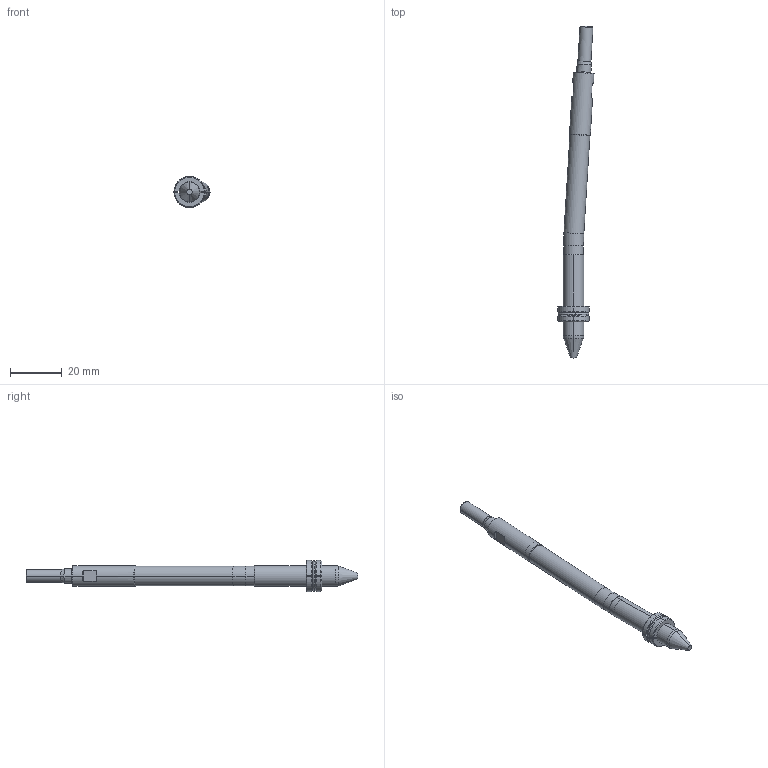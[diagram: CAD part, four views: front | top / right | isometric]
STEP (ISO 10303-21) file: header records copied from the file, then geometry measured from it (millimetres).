
FILE_DESCRIPTION (( 'STEP AP214' ), '1' );
FILE_NAME ('WP080030-EJE 3,5°.STEP', '2021-03-19T15:18:34', ( '' ), ( '' ), 'SwSTEP 2.0', 'SolidWorks 2019', '' );
FILE_SCHEMA (( 'AUTOMOTIVE_DESIGN' ));
Length unit declared in the file: millimetre
Products named in the file (6): Web-WP08-F_WP08-F-ON 3,5ø; Web-WP08-1; Web-WP08-2; WP080030-EJE 3,5°; Web-WP08-7; Web-WP08-6
Assembly tree (5 placements, depth 2):
  WP080030-EJE 3,5°
    Web-WP08-1
    Web-WP08-F_WP08-F-ON 3,5ø
    Web-WP08-2
    Web-WP08-6
    Web-WP08-7
Bounding box: 13.92 x 127.98 x 12 mm (x, y, z)
Volume: 5841.1 mm3; surface area: 4095.2 mm2
Topology: 6 solids, 6 shells, 121 faces, 278 edges, 172 vertices
Faces by surface type: cylinder 36, plane 29, cone 28, torus 28
Entity records: 3957 total; most frequent: CARTESIAN_POINT 763, DIRECTION 648, ORIENTED_EDGE 556, AXIS2_PLACEMENT_3D 281, EDGE_CURVE 278, VERTEX_POINT 172, CIRCLE 152, EDGE_LOOP 126
